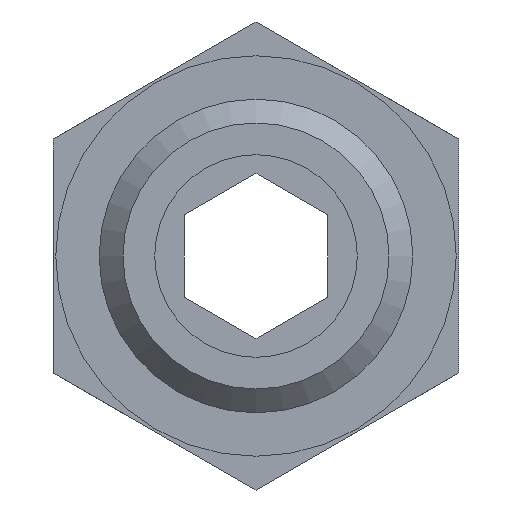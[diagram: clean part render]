
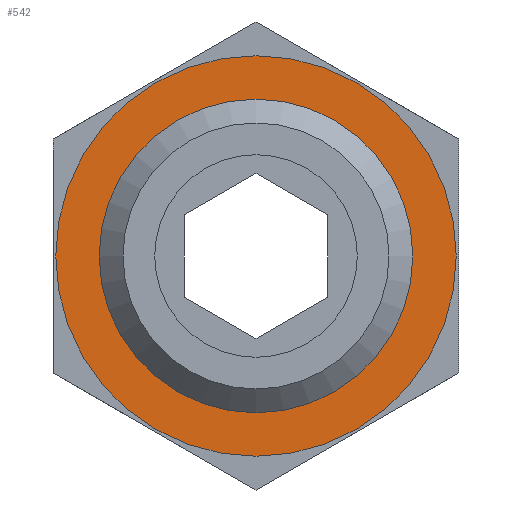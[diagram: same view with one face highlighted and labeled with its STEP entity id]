
A CAD part, front view. The second image highlights one B-rep face of the part: STEP entity #542.
In plain terms, the highlighted planar face has unit normal (0, -1, 0).
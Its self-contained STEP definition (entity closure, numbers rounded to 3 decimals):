
#112=PLANE($,#605);
#136=FACE_BOUND($,#223,.T.);
#137=FACE_BOUND($,#224,.T.);
#223=EDGE_LOOP($,(#488));
#224=EDGE_LOOP($,(#489));
#231=CIRCLE($,#564,6.579);
#247=CIRCLE($,#604,8.4);
#266=VERTEX_POINT($,#813);
#294=VERTEX_POINT($,#929);
#319=EDGE_CURVE($,#266,#266,#231,.T.);
#359=EDGE_CURVE($,#294,#294,#247,.T.);
#488=ORIENTED_EDGE($,*,*,#319,.F.);
#489=ORIENTED_EDGE($,*,*,#359,.T.);
#542=ADVANCED_FACE($,(#136,#137),#112,.T.);
#564=AXIS2_PLACEMENT_3D($,#814,#662,#663);
#604=AXIS2_PLACEMENT_3D($,#930,#754,#755);
#605=AXIS2_PLACEMENT_3D($,#931,#756,#757);
#662=DIRECTION('center_axis',(0.,-1.,0.));
#663=DIRECTION('ref_axis',(1.,0.,0.));
#754=DIRECTION('center_axis',(0.,-1.,0.));
#755=DIRECTION('ref_axis',(1.,0.,0.));
#756=DIRECTION('center_axis',(0.,-1.,0.));
#757=DIRECTION('ref_axis',(0.,0.,-1.));
#813=CARTESIAN_POINT('',(6.579,-23.,0.));
#814=CARTESIAN_POINT('Origin',(0.,-23.,0.));
#929=CARTESIAN_POINT('',(8.4,-23.,0.));
#930=CARTESIAN_POINT('Origin',(0.,-23.,0.));
#931=CARTESIAN_POINT('Origin',(7.489,-23.,0.));
